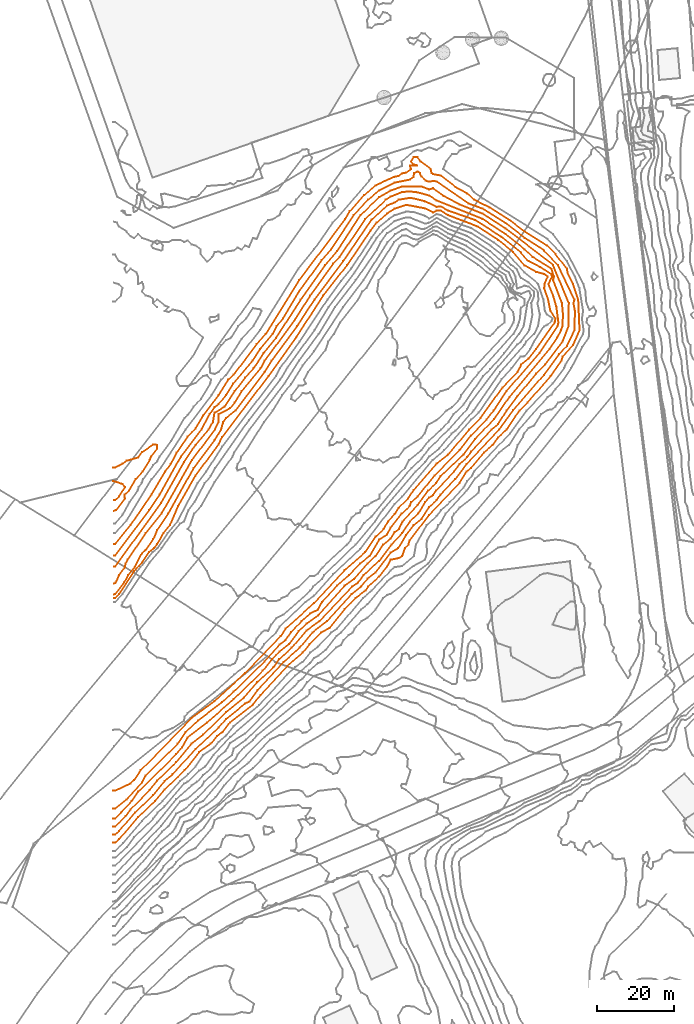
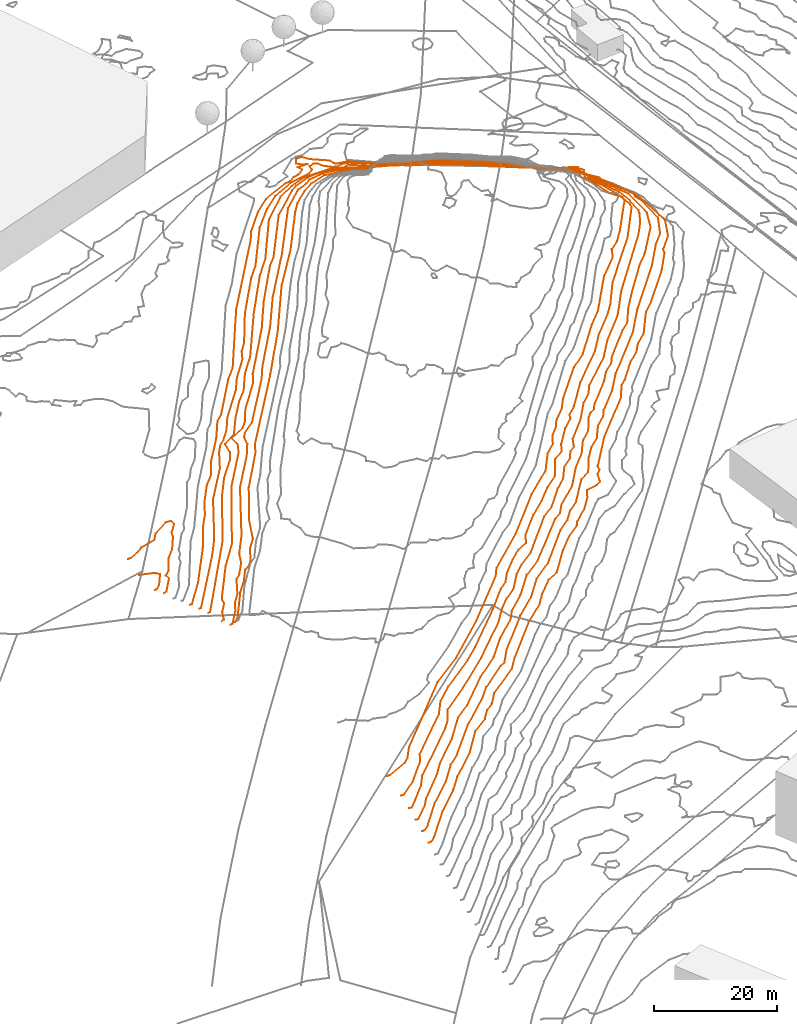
# Not in any storey, part 281 of 419: 8 proxies.
"""IFC2X3 model written with IfcOpenShell, lengths in metres."""

import ifcopenshell
import ifcopenshell.guid

model = None  # the IFC model being written
_history = None  # IfcOwnerHistory: only IFC2X3 demands one
_inside = {}  # id of a spatial element -> (the spatial element, [elements in it])
_under = {}  # id of a project, library or spatial element -> (it, [spatial elements below it])
_declared = {}  # id of a project -> (the project, [libraries it declares])
_typed = {}  # id of a type object -> (the type object, [elements of that type])
_made_of = {}  # id of a material, layer set ... -> (it, [elements and type objects made of it])


def new_model(schema):
    """Start an empty IFC model of exactly this schema.

    Asked for "IFC4X3", IfcOpenShell would pick the latest addendum, in which some entities
    have other attributes; the version numbers below select the first issue.
    IFC2X3 requires an IfcOwnerHistory on every rooted entity: one is made here for all.
    """
    global model, _history
    if schema == "IFC4X3":
        model = ifcopenshell.file(schema_version=(4, 3, 0, 0))
    else:
        model = ifcopenshell.file(schema=schema)
    _inside.clear()
    _under.clear()
    _declared.clear()
    _typed.clear()
    _made_of.clear()
    _history = None
    if model.schema == "IFC2X3":
        org = make("IfcOrganization", Name="unknown")
        user = make(
            "IfcPersonAndOrganization",
            ThePerson=make("IfcPerson", FamilyName="unknown"),
            TheOrganization=org,
        )
        app = make(
            "IfcApplication",
            ApplicationDeveloper=org,
            Version="unknown",
            ApplicationFullName="unknown",
            ApplicationIdentifier="unknown",
        )
        _history = make(
            "IfcOwnerHistory",
            OwningUser=user,
            OwningApplication=app,
            ChangeAction="ADDED",
            CreationDate=0,
        )
    return model


def make(cls, **values):
    """One entity of the class cls with the attributes given. An attribute that is None is left unset."""
    return model.create_entity(
        cls, **{name: value for name, value in values.items() if value is not None}
    )


def entity(cls, *values):
    """Any entity or typed value of the class cls, its attributes in the order of the schema. None: left unset."""
    e = model.create_entity(cls)
    for i, value in enumerate(values):
        if value is not None:
            e[i] = value
    return e


def rooted(cls, **values):
    """An entity with a GlobalId (a new one), such as an element, a storey or a relation."""
    return make(cls, GlobalId=ifcopenshell.guid.new(), OwnerHistory=_history, **values)


def si_unit(unit_type, name, prefix=None):
    """IfcSIUnit, for example si_unit("LENGTHUNIT", "METRE", prefix="MILLI")."""
    return make("IfcSIUnit", UnitType=unit_type, Prefix=prefix, Name=name)


def assignment(units):
    """IfcUnitAssignment: the units of a project."""
    return None if units is None else make("IfcUnitAssignment", Units=units)


def point(xyz):
    """IfcCartesianPoint."""
    return None if xyz is None else make("IfcCartesianPoint", Coordinates=xyz)


def direction(xyz):
    """IfcDirection."""
    return None if xyz is None else make("IfcDirection", DirectionRatios=xyz)


def frame(location, z_axis=None, x_axis=None):
    """IfcAxis2Placement3D, a coordinate frame: its origin and axes. An axis left out is left unset."""
    return make(
        "IfcAxis2Placement3D",
        Location=point(location),
        Axis=direction(z_axis),
        RefDirection=direction(x_axis),
    )


def origin_with_axes():
    """The frame at (0, 0, 0) with the z axis (0, 0, 1) and the x axis (1, 0, 0) written out."""
    return frame((0.0, 0.0, 0.0), z_axis=(0.0, 0.0, 1.0), x_axis=(1.0, 0.0, 0.0))


def place(relative_to, where):
    """IfcLocalPlacement: puts the frame where relative to a parent placement (None: the world)."""
    return make(
        "IfcLocalPlacement", PlacementRelTo=relative_to, RelativePlacement=where
    )


def context(
    kind, dimensions, precision=None, world=None, true_north=None, identifier=None
):
    """IfcGeometricRepresentationContext, for example the 3D "Model" context."""
    return make(
        "IfcGeometricRepresentationContext",
        ContextIdentifier=identifier,
        ContextType=kind,
        CoordinateSpaceDimension=dimensions,
        Precision=precision,
        WorldCoordinateSystem=world,
        TrueNorth=true_north,
    )


def subcontext(parent, identifier, kind, view, scale=None):
    """IfcGeometricRepresentationSubContext, for example "Body" below "Model"."""
    return make(
        "IfcGeometricRepresentationSubContext",
        ContextIdentifier=identifier,
        ContextType=kind,
        ParentContext=parent,
        TargetScale=scale,
        TargetView=view,
    )


def project(units=None, contexts=None):
    """IfcProject with its units and contexts."""
    return rooted(
        "IfcProject",
        Name="project",
        RepresentationContexts=contexts,
        UnitsInContext=assignment(units),
    )


def shape(context_of_items, identifier, shape_type, items):
    """IfcShapeRepresentation: the items that make up one representation, for example the "Body"."""
    return make(
        "IfcShapeRepresentation",
        ContextOfItems=context_of_items,
        RepresentationIdentifier=identifier,
        RepresentationType=shape_type,
        Items=items,
    )


def made_of(thing, what):
    """Note that an element or type object is made of a material, layer set ...; save() writes the relation."""
    if what is not None:
        _made_of.setdefault(what.id(), (what, []))[1].append(thing)
    return thing


def element(
    cls,
    number,
    at=None,
    inside=None,
    cuts=None,
    type_object=None,
    material=None,
    context=None,
    identifier="Body",
    shape_type=None,
    held_by="IfcProductDefinitionShape",
    body=None,
    shapes=None,
    **own,
):
    """One element of the class cls, such as IfcWall. Its Tag is "e" and its number.

    at: its placement. inside: the storey or other place that contains it. cuts: it is an
    opening in that element (IfcRelVoidsElement). A single representation is given by context,
    identifier, shape_type and body (its items); several are given by shapes. held_by: the class
    of the entity that holds the representations. save() writes the other relations.
    """
    e = rooted(cls, Tag="e%d" % number, ObjectPlacement=at, **own)
    if body is not None:
        shapes = [shape(context, identifier, shape_type, body)]
    if shapes is not None:
        e.Representation = make(held_by, Representations=shapes)
    if inside is not None:
        _inside.setdefault(inside.id(), (inside, []))[1].append(e)
    if cuts is not None:
        rooted(
            "IfcRelVoidsElement", RelatingBuildingElement=cuts, RelatedOpeningElement=e
        )
    if type_object is not None:
        _typed.setdefault(type_object.id(), (type_object, []))[1].append(e)
    return made_of(e, material)


def aggregate(whole, parts):
    """IfcRelAggregates: a whole, such as a stair, and the parts it consists of."""
    return rooted("IfcRelAggregates", RelatingObject=whole, RelatedObjects=parts)


def save(model, path):
    """Write the relations noted so far, then the file.

    IfcRelAggregates (storeys below a building ...), IfcRelContainedInSpatialStructure (elements
    in a storey), IfcRelDefinesByType, IfcRelAssociatesMaterial and IfcRelDeclares: one each for
    every whole, place, type object, material and project.
    """
    for whole, parts in _under.values():
        aggregate(whole, parts)
    for where, things in _inside.values():
        rooted(
            "IfcRelContainedInSpatialStructure",
            RelatedElements=things,
            RelatingStructure=where,
        )
    for kind, things in _typed.values():
        rooted("IfcRelDefinesByType", RelatedObjects=things, RelatingType=kind)
    for what, things in _made_of.values():
        rooted("IfcRelAssociatesMaterial", RelatedObjects=things, RelatingMaterial=what)
    for by, libraries in _declared.values():
        rooted("IfcRelDeclares", RelatingContext=by, RelatedDefinitions=libraries)
    model.write(path)


model = new_model("IFC2X3")

# Units and contexts
model_context = context("Model", 3, precision=1e-05, world=origin_with_axes())
body_context = subcontext(model_context, "Body", "Model", "MODEL_VIEW")
ifc_project = project(units=[si_unit("AREAUNIT", "SQUARE_METRE"), si_unit("LENGTHUNIT", "METRE")], contexts=[model_context])

# Proxies
proxy_1_placement = place(None, frame((-0.4079795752, 741.44607927, 19.0), z_axis=(0.0, 0.0, 1.0), x_axis=(1.0, 0.0, 0.0)))
element("IfcBuildingElementProxy", 1, at=proxy_1_placement, Name="Contour 19.0 m", ObjectType="NOTDEFINED", context=body_context, shape_type="GeometricCurveSet", body=[
    entity("IfcGeometricCurveSet", [entity("IfcPolyline", [entity("IfcCartesianPoint", [0.0, 0.0, 0.0]), entity("IfcCartesianPoint", [0.5, 0.0, 0.0]), entity("IfcCartesianPoint", [1.5, 0.9516146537, 0.0]), entity("IfcCartesianPoint", [3.1111114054, 3.4516117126, 0.0]), entity("IfcCartesianPoint", [2.5, 4.2102326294, 0.0]), entity("IfcCartesianPoint", [0.0, 4.9849458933, 0.0])])]),
])
proxy_2_placement = place(None, frame((-0.4079795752, 738.6003927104, 20.0), z_axis=(0.0, 0.0, 1.0), x_axis=(1.0, 0.0, 0.0)))
element("IfcBuildingElementProxy", 2, at=proxy_2_placement, Name="Contour 20.0 m", ObjectType="NOTDEFINED", context=body_context, shape_type="GeometricCurveSet", body=[
    entity("IfcGeometricCurveSet", [entity("IfcPolyline", [entity("IfcCartesianPoint", [0.0, 0.0, 0.0]), entity("IfcCartesianPoint", [0.8333352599, 0.2972982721, 0.0]), entity("IfcCartesianPoint", [3.0606058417, 3.2972982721, 0.0]), entity("IfcCartesianPoint", [3.037735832, 4.2972982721, 0.0]), entity("IfcCartesianPoint", [4.1470583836, 5.2972982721, 0.0]), entity("IfcCartesianPoint", [5.8859639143, 8.2972982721, 0.0]), entity("IfcCartesianPoint", [7.7000012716, 10.2972982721, 0.0]), entity("IfcCartesianPoint", [9.583334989, 13.2972982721, 0.0]), entity("IfcCartesianPoint", [9.9062477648, 14.2972982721, 0.0]), entity("IfcCartesianPoint", [11.5200004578, 16.2972982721, 0.0]), entity("IfcCartesianPoint", [11.5, 17.2971982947, 0.0]), entity("IfcCartesianPoint", [10.5, 17.3742224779, 0.0]), entity("IfcCartesianPoint", [7.5, 15.3687287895, 0.0]), entity("IfcCartesianPoint", [6.5, 14.0056325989, 0.0]), entity("IfcCartesianPoint", [3.5, 13.1434498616, 0.0]), entity("IfcCartesianPoint", [2.5, 12.3742224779, 0.0]), entity("IfcCartesianPoint", [0.5, 11.4084117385, 0.0]), entity("IfcCartesianPoint", [0.0, 11.4084117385, 0.0])])]),
])
proxy_3_placement = place(None, frame((-0.4079795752, 665.5643611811, 28.0), z_axis=(0.0, 0.0, 1.0), x_axis=(1.0, 0.0, 0.0)))
element("IfcBuildingElementProxy", 3, at=proxy_3_placement, Name="Contour 28.0 m", ObjectType="NOTDEFINED", context=body_context, shape_type="GeometricCurveSet", body=[
    entity("IfcGeometricCurveSet", [entity("IfcPolyline", [entity("IfcCartesianPoint", [0.0, 50.3425892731, 0.0]), entity("IfcCartesianPoint", [0.5, 50.3425892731, 0.0]), entity("IfcCartesianPoint", [1.5535710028, 51.3333298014, 0.0]), entity("IfcCartesianPoint", [5.5158733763, 57.3333298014, 0.0]), entity("IfcCartesianPoint", [7.5, 59.6296260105, 0.0]), entity("IfcCartesianPoint", [9.333333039, 62.3333298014, 0.0]), entity("IfcCartesianPoint", [10.7280704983, 63.3333298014, 0.0]), entity("IfcCartesianPoint", [11.5, 64.3650765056, 0.0]), entity("IfcCartesianPoint", [13.1184199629, 67.3333298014, 0.0]), entity("IfcCartesianPoint", [14.8181805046, 69.3333298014, 0.0]), entity("IfcCartesianPoint", [16.9680843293, 74.3333298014, 0.0]), entity("IfcCartesianPoint", [21.5, 82.263560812, 0.0]), entity("IfcCartesianPoint", [27.5, 90.4496075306, 0.0]), entity("IfcCartesianPoint", [28.5, 92.4144125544, 0.0]), entity("IfcCartesianPoint", [40.5999984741, 108.3333298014, 0.0]), entity("IfcCartesianPoint", [47.771186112, 118.3333298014, 0.0]), entity("IfcCartesianPoint", [54.8571433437, 129.3333298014, 0.0]), entity("IfcCartesianPoint", [61.1538458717, 137.3333298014, 0.0]), entity("IfcCartesianPoint", [67.2323939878, 146.3333298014, 0.0]), entity("IfcCartesianPoint", [68.7999992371, 148.3333298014, 0.0]), entity("IfcCartesianPoint", [71.5, 150.7407366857, 0.0]), entity("IfcCartesianPoint", [73.5, 151.9878750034, 0.0]), entity("IfcCartesianPoint", [76.5, 153.0060572, 0.0]), entity("IfcCartesianPoint", [81.5, 152.0880478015, 0.0]), entity("IfcCartesianPoint", [83.5, 150.9999957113, 0.0]), entity("IfcCartesianPoint", [84.5, 151.5076421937, 0.0]), entity("IfcCartesianPoint", [85.5, 151.4906325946, 0.0]), entity("IfcCartesianPoint", [87.5, 150.2857096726, 0.0]), entity("IfcCartesianPoint", [95.2333319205, 147.3333298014, 0.0]), entity("IfcCartesianPoint", [100.5, 143.8557183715, 0.0]), entity("IfcCartesianPoint", [104.5, 140.6818140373, 0.0]), entity("IfcCartesianPoint", [107.5, 137.1823867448, 0.0]), entity("IfcCartesianPoint", [110.5, 135.5079336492, 0.0]), entity("IfcCartesianPoint", [112.5, 134.9487147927, 0.0]), entity("IfcCartesianPoint", [113.5144930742, 134.3333298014, 0.0]), entity("IfcCartesianPoint", [112.6619049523, 132.3333298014, 0.0]), entity("IfcCartesianPoint", [112.6090900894, 131.3333298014, 0.0]), entity("IfcCartesianPoint", [113.629870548, 128.3333298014, 0.0]), entity("IfcCartesianPoint", [114.2391301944, 125.3333298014, 0.0]), entity("IfcCartesianPoint", [115.5287776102, 123.3333298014, 0.0]), entity("IfcCartesianPoint", [115.3526320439, 122.3333298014, 0.0]), entity("IfcCartesianPoint", [110.4393927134, 115.3333298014, 0.0]), entity("IfcCartesianPoint", [108.5, 112.8999963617, 0.0]), entity("IfcCartesianPoint", [106.5980380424, 111.3333298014, 0.0]), entity("IfcCartesianPoint", [105.6290319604, 109.3333298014, 0.0]), entity("IfcCartesianPoint", [101.6754393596, 105.3333298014, 0.0]), entity("IfcCartesianPoint", [95.9067791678, 97.3333298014, 0.0]), entity("IfcCartesianPoint", [92.9915268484, 94.3333298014, 0.0]), entity("IfcCartesianPoint", [87.5, 87.7948674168, 0.0]), entity("IfcCartesianPoint", [84.5, 85.424240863, 0.0]), entity("IfcCartesianPoint", [78.5, 78.5515126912, 0.0]), entity("IfcCartesianPoint", [76.9912278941, 76.3333298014, 0.0]), entity("IfcCartesianPoint", [74.5, 73.7878764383, 0.0]), entity("IfcCartesianPoint", [73.5, 72.2108818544, 0.0]), entity("IfcCartesianPoint", [71.7631573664, 70.3333298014, 0.0]), entity("IfcCartesianPoint", [70.6851855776, 68.3333298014, 0.0]), entity("IfcCartesianPoint", [68.5461547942, 66.3333298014, 0.0]), entity("IfcCartesianPoint", [65.8488360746, 62.3333298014, 0.0]), entity("IfcCartesianPoint", [60.5, 57.609191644, 0.0]), entity("IfcCartesianPoint", [52.5, 49.0542582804, 0.0]), entity("IfcCartesianPoint", [45.0588248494, 42.3333298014, 0.0]), entity("IfcCartesianPoint", [43.7564103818, 40.3333298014, 0.0]), entity("IfcCartesianPoint", [34.5, 30.7643643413, 0.0]), entity("IfcCartesianPoint", [26.5, 23.420288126, 0.0]), entity("IfcCartesianPoint", [20.5, 19.0208302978, 0.0]), entity("IfcCartesianPoint", [7.2352937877, 5.3333298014, 0.0]), entity("IfcCartesianPoint", [5.5, 2.8333256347, 0.0]), entity("IfcCartesianPoint", [4.5, 1.9122787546, 0.0]), entity("IfcCartesianPoint", [0.5, 0.0, 0.0]), entity("IfcCartesianPoint", [0.0, 0.0, 0.0])])]),
])
proxy_4_placement = place(None, frame((-0.4079795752, 660.8976881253, 27.0), z_axis=(0.0, 0.0, 1.0), x_axis=(1.0, 0.0, 0.0)))
element("IfcBuildingElementProxy", 4, at=proxy_4_placement, Name="Contour 27.0 m", ObjectType="NOTDEFINED", context=body_context, shape_type="GeometricCurveSet", body=[
    entity("IfcGeometricCurveSet", [entity("IfcPolyline", [entity("IfcCartesianPoint", [0.0, 55.9351883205, 0.0]), entity("IfcCartesianPoint", [0.5693066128, 56.0000028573, 0.0]), entity("IfcCartesianPoint", [2.8524589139, 59.0000028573, 0.0]), entity("IfcCartesianPoint", [3.9351845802, 61.0000028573, 0.0]), entity("IfcCartesianPoint", [5.5588232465, 63.0000028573, 0.0]), entity("IfcCartesianPoint", [7.5, 66.6666730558, 0.0]), entity("IfcCartesianPoint", [8.5, 67.526319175, 0.0]), entity("IfcCartesianPoint", [10.5, 70.3500033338, 0.0]), entity("IfcCartesianPoint", [11.5, 72.7142898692, 0.0]), entity("IfcCartesianPoint", [14.4000009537, 77.0000028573, 0.0]), entity("IfcCartesianPoint", [21.0531927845, 89.0000028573, 0.0]), entity("IfcCartesianPoint", [26.5, 96.2571458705, 0.0]), entity("IfcCartesianPoint", [28.2000007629, 99.0000028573, 0.0]), entity("IfcCartesianPoint", [28.7631581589, 101.0000028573, 0.0]), entity("IfcCartesianPoint", [29.4705875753, 102.0000028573, 0.0]), entity("IfcCartesianPoint", [31.9642865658, 104.0000028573, 0.0]), entity("IfcCartesianPoint", [39.5517253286, 114.0000028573, 0.0]), entity("IfcCartesianPoint", [41.4347812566, 117.0000028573, 0.0]), entity("IfcCartesianPoint", [48.0757564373, 126.0000028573, 0.0]), entity("IfcCartesianPoint", [52.5943384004, 133.0000028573, 0.0]), entity("IfcCartesianPoint", [60.1140360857, 143.0000028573, 0.0]), entity("IfcCartesianPoint", [67.5, 153.7907003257, 0.0]), entity("IfcCartesianPoint", [71.5, 157.4888914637, 0.0]), entity("IfcCartesianPoint", [73.5, 158.2698446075, 0.0]), entity("IfcCartesianPoint", [74.5, 159.0163966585, 0.0]), entity("IfcCartesianPoint", [77.5, 159.5000047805, 0.0]), entity("IfcCartesianPoint", [78.5, 159.3448318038, 0.0]), entity("IfcCartesianPoint", [81.5, 158.5892889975, 0.0]), entity("IfcCartesianPoint", [84.5, 157.1428603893, 0.0]), entity("IfcCartesianPoint", [85.5, 157.2659601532, 0.0]), entity("IfcCartesianPoint", [87.5, 156.1645589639, 0.0]), entity("IfcCartesianPoint", [94.5, 153.7073201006, 0.0]), entity("IfcCartesianPoint", [101.5, 149.2575787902, 0.0]), entity("IfcCartesianPoint", [106.5, 145.1896591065, 0.0]), entity("IfcCartesianPoint", [108.5, 142.9464303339, 0.0]), entity("IfcCartesianPoint", [111.5, 141.4324350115, 0.0]), entity("IfcCartesianPoint", [114.5, 139.4848509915, 0.0]), entity("IfcCartesianPoint", [114.6545892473, 139.0000028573, 0.0]), entity("IfcCartesianPoint", [113.7000012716, 137.0000028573, 0.0]), entity("IfcCartesianPoint", [114.9576277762, 134.0000028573, 0.0]), entity("IfcCartesianPoint", [115.7857150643, 131.0000028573, 0.0]), entity("IfcCartesianPoint", [116.3269229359, 127.0000028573, 0.0]), entity("IfcCartesianPoint", [116.1027392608, 126.0000028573, 0.0]), entity("IfcCartesianPoint", [111.3166657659, 119.0000028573, 0.0]), entity("IfcCartesianPoint", [102.7000006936, 109.0000028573, 0.0]), entity("IfcCartesianPoint", [99.4019619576, 104.0000028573, 0.0]), entity("IfcCartesianPoint", [97.5, 101.6136395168, 0.0]), entity("IfcCartesianPoint", [93.5, 97.4909117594, 0.0]), entity("IfcCartesianPoint", [90.5, 93.606065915, 0.0]), entity("IfcCartesianPoint", [83.9210524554, 87.0000028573, 0.0]), entity("IfcCartesianPoint", [79.5, 81.4800023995, 0.0]), entity("IfcCartesianPoint", [77.8333317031, 80.0000028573, 0.0]), entity("IfcCartesianPoint", [77.47916617, 79.0000028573, 0.0]), entity("IfcCartesianPoint", [75.3333333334, 77.0000028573, 0.0]), entity("IfcCartesianPoint", [72.5, 73.4210560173, 0.0]), entity("IfcCartesianPoint", [71.5, 71.5535738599, 0.0]), entity("IfcCartesianPoint", [69.5, 70.2692332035, 0.0]), entity("IfcCartesianPoint", [67.0079367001, 66.0000028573, 0.0]), entity("IfcCartesianPoint", [64.4803917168, 64.0000028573, 0.0]), entity("IfcCartesianPoint", [61.6136349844, 61.0000028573, 0.0]), entity("IfcCartesianPoint", [58.5, 58.2881385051, 0.0]), entity("IfcCartesianPoint", [54.538462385, 54.0000028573, 0.0]), entity("IfcCartesianPoint", [53.5, 51.9466683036, 0.0]), entity("IfcCartesianPoint", [51.5, 51.0000009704, 0.0]), entity("IfcCartesianPoint", [49.2555546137, 49.0000028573, 0.0]), entity("IfcCartesianPoint", [46.5, 46.1162805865, 0.0]), entity("IfcCartesianPoint", [45.0200004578, 44.0000028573, 0.0]), entity("IfcCartesianPoint", [43.5, 42.84483016, 0.0]), entity("IfcCartesianPoint", [39.5, 38.4363666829, 0.0]), entity("IfcCartesianPoint", [31.5, 30.5106414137, 0.0]), entity("IfcCartesianPoint", [28.5, 27.8000021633, 0.0]), entity("IfcCartesianPoint", [22.1388899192, 23.0000028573, 0.0]), entity("IfcCartesianPoint", [18.9444448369, 20.0000028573, 0.0]), entity("IfcCartesianPoint", [16.9, 17.0000028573, 0.0]), entity("IfcCartesianPoint", [8.5, 8.6818214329, 0.0]), entity("IfcCartesianPoint", [7.5, 6.8363659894, 0.0]), entity("IfcCartesianPoint", [3.5, 2.4200010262, 0.0]), entity("IfcCartesianPoint", [0.5, 0.0, 0.0]), entity("IfcCartesianPoint", [0.0, 0.0, 0.0])])]),
])
proxy_5_placement = place(None, frame((-0.4079795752, 658.3444981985, 26.0), z_axis=(0.0, 0.0, 1.0), x_axis=(1.0, 0.0, 0.0)))
element("IfcBuildingElementProxy", 5, at=proxy_5_placement, Name="Contour 26.0 m", ObjectType="NOTDEFINED", context=body_context, shape_type="GeometricCurveSet", body=[
    entity("IfcGeometricCurveSet", [entity("IfcPolyline", [entity("IfcCartesianPoint", [0.0, 61.3031951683, 0.0]), entity("IfcCartesianPoint", [0.6923059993, 61.5531927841, 0.0]), entity("IfcCartesianPoint", [1.5357150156, 63.5531927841, 0.0]), entity("IfcCartesianPoint", [3.0555567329, 65.5531927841, 0.0]), entity("IfcCartesianPoint", [3.2428569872, 66.5531927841, 0.0]), entity("IfcCartesianPoint", [3.8243258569, 67.5531927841, 0.0]), entity("IfcCartesianPoint", [8.5204086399, 74.5531927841, 0.0]), entity("IfcCartesianPoint", [12.5980380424, 79.5531927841, 0.0]), entity("IfcCartesianPoint", [20.5638310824, 93.5531927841, 0.0]), entity("IfcCartesianPoint", [26.5714275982, 101.5531927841, 0.0]), entity("IfcCartesianPoint", [27.5217396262, 103.5531927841, 0.0]), entity("IfcCartesianPoint", [27.5789489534, 105.5531927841, 0.0]), entity("IfcCartesianPoint", [30.5, 107.1067637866, 0.0]), entity("IfcCartesianPoint", [31.7745084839, 108.5531927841, 0.0]), entity("IfcCartesianPoint", [33.5999984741, 111.5531927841, 0.0]), entity("IfcCartesianPoint", [38.5500011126, 117.5531927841, 0.0]), entity("IfcCartesianPoint", [39.6093746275, 119.5531927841, 0.0]), entity("IfcCartesianPoint", [47.5, 130.26747772, 0.0]), entity("IfcCartesianPoint", [51.5, 136.5781933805, 0.0]), entity("IfcCartesianPoint", [57.5, 144.9148956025, 0.0]), entity("IfcCartesianPoint", [59.0915485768, 146.5531927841, 0.0]), entity("IfcCartesianPoint", [65.8584911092, 156.5531927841, 0.0]), entity("IfcCartesianPoint", [71.2173925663, 161.5531927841, 0.0]), entity("IfcCartesianPoint", [72.5, 162.3865261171, 0.0]), entity("IfcCartesianPoint", [75.5, 163.5821789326, 0.0]), entity("IfcCartesianPoint", [77.5, 163.7281921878, 0.0]), entity("IfcCartesianPoint", [79.5, 163.4817627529, 0.0]), entity("IfcCartesianPoint", [82.5, 162.65319183, 0.0]), entity("IfcCartesianPoint", [84.5, 161.3531920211, 0.0]), entity("IfcCartesianPoint", [96.4555546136, 156.5531927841, 0.0]), entity("IfcCartesianPoint", [102.4807688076, 152.5531927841, 0.0]), entity("IfcCartesianPoint", [107.5181821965, 148.5531927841, 0.0]), entity("IfcCartesianPoint", [109.5, 146.6475311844, 0.0]), entity("IfcCartesianPoint", [114.5, 143.5097135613, 0.0]), entity("IfcCartesianPoint", [115.137681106, 141.5531927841, 0.0]), entity("IfcCartesianPoint", [114.9393941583, 140.5531927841, 0.0]), entity("IfcCartesianPoint", [117.230769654, 134.5531927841, 0.0]), entity("IfcCartesianPoint", [117.5000015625, 131.5531927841, 0.0]), entity("IfcCartesianPoint", [117.3658528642, 128.5531927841, 0.0]), entity("IfcCartesianPoint", [116.9918030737, 127.5531927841, 0.0]), entity("IfcCartesianPoint", [116.000002, 125.5531927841, 0.0]), entity("IfcCartesianPoint", [113.9444448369, 122.5531927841, 0.0]), entity("IfcCartesianPoint", [103.5, 110.0795091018, 0.0]), entity("IfcCartesianPoint", [99.5, 104.3224228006, 0.0]), entity("IfcCartesianPoint", [94.5, 99.040999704, 0.0]), entity("IfcCartesianPoint", [91.5, 95.0643041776, 0.0]), entity("IfcCartesianPoint", [85.5, 89.386527, 0.0]), entity("IfcCartesianPoint", [84.3421049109, 87.5531927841, 0.0]), entity("IfcCartesianPoint", [82.2460316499, 85.5531927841, 0.0]), entity("IfcCartesianPoint", [79.5, 81.7754154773, 0.0]), entity("IfcCartesianPoint", [75.5701768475, 77.5531927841, 0.0]), entity("IfcCartesianPoint", [74.6406253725, 75.5531927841, 0.0]), entity("IfcCartesianPoint", [73.5, 74.7122828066, 0.0]), entity("IfcCartesianPoint", [72.5, 73.0731932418, 0.0]), entity("IfcCartesianPoint", [70.5, 71.4742438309, 0.0]), entity("IfcCartesianPoint", [68.5714300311, 68.5531927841, 0.0]), entity("IfcCartesianPoint", [66.4148918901, 66.5531927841, 0.0]), entity("IfcCartesianPoint", [62.91071386, 62.5531927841, 0.0]), entity("IfcCartesianPoint", [60.5, 60.7796091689, 0.0]), entity("IfcCartesianPoint", [53.5, 53.0161549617, 0.0]), entity("IfcCartesianPoint", [50.5, 50.8531931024, 0.0]), entity("IfcCartesianPoint", [48.5, 48.9073599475, 0.0]), entity("IfcCartesianPoint", [45.9655180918, 45.5531927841, 0.0]), entity("IfcCartesianPoint", [43.5, 43.6087495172, 0.0]), entity("IfcCartesianPoint", [41.5, 41.5902306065, 0.0]), entity("IfcCartesianPoint", [39.0957445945, 38.5531927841, 0.0]), entity("IfcCartesianPoint", [31.5, 31.1380987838, 0.0]), entity("IfcCartesianPoint", [24.5, 25.0531907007, 0.0]), entity("IfcCartesianPoint", [19.5, 21.1668294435, 0.0]), entity("IfcCartesianPoint", [17.9800008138, 18.5531927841, 0.0]), entity("IfcCartesianPoint", [16.5, 16.7674788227, 0.0]), entity("IfcCartesianPoint", [6.5, 6.9420806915, 0.0]), entity("IfcCartesianPoint", [4.8559317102, 4.5531927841, 0.0]), entity("IfcCartesianPoint", [2.0319156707, 1.5531927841, 0.0]), entity("IfcCartesianPoint", [0.5, 0.0, 0.0]), entity("IfcCartesianPoint", [0.0, 0.0, 0.0])])]),
])
proxy_6_placement = place(None, frame((-0.4079795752, 656.2101904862, 25.0), z_axis=(0.0, 0.0, 1.0), x_axis=(1.0, 0.0, 0.0)))
element("IfcBuildingElementProxy", 6, at=proxy_6_placement, Name="Contour 25.0 m", ObjectType="NOTDEFINED", context=body_context, shape_type="GeometricCurveSet", body=[
    entity("IfcGeometricCurveSet", [entity("IfcPolyline", [entity("IfcCartesianPoint", [0.0, 67.8541650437, 0.0]), entity("IfcCartesianPoint", [0.5, 67.8541650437, 0.0]), entity("IfcCartesianPoint", [12.5, 84.5208347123, 0.0]), entity("IfcCartesianPoint", [18.5, 95.1753074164, 0.0]), entity("IfcCartesianPoint", [21.4999984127, 99.6875004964, 0.0]), entity("IfcCartesianPoint", [24.9150940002, 103.6875004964, 0.0]), entity("IfcCartesianPoint", [26.0555551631, 105.6875004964, 0.0]), entity("IfcCartesianPoint", [26.5, 108.0578716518, 0.0]), entity("IfcCartesianPoint", [29.1382971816, 109.6875004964, 0.0]), entity("IfcCartesianPoint", [31.7545446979, 113.6875004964, 0.0]), entity("IfcCartesianPoint", [34.5, 117.2784093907, 0.0]), entity("IfcCartesianPoint", [36.7352956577, 119.6875004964, 0.0]), entity("IfcCartesianPoint", [39.2894728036, 123.6875004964, 0.0]), entity("IfcCartesianPoint", [42.5, 127.5208345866, 0.0]), entity("IfcCartesianPoint", [49.0192311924, 137.6875004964, 0.0]), entity("IfcCartesianPoint", [55.3813564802, 146.6875004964, 0.0]), entity("IfcCartesianPoint", [58.5, 150.3125010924, 0.0]), entity("IfcCartesianPoint", [64.5869583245, 159.6875004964, 0.0]), entity("IfcCartesianPoint", [69.5, 164.3660710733, 0.0]), entity("IfcCartesianPoint", [72.5, 166.0752568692, 0.0]), entity("IfcCartesianPoint", [75.5, 167.1727942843, 0.0]), entity("IfcCartesianPoint", [80.5, 167.173214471, 0.0]), entity("IfcCartesianPoint", [82.5, 166.395191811, 0.0]), entity("IfcCartesianPoint", [83.5, 166.7083343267, 0.0]), entity("IfcCartesianPoint", [86.3275882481, 164.6875004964, 0.0]), entity("IfcCartesianPoint", [90.5, 162.4494055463, 0.0]), entity("IfcCartesianPoint", [96.5, 160.0486122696, 0.0]), entity("IfcCartesianPoint", [102.5, 156.165760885, 0.0]), entity("IfcCartesianPoint", [114.8972607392, 146.6875004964, 0.0]), entity("IfcCartesianPoint", [119.0227278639, 136.6875004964, 0.0]), entity("IfcCartesianPoint", [118.955881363, 130.6875004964, 0.0]), entity("IfcCartesianPoint", [117.3695661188, 126.6875004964, 0.0]), entity("IfcCartesianPoint", [112.7972982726, 120.6875004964, 0.0]), entity("IfcCartesianPoint", [110.5, 118.346038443, 0.0]), entity("IfcCartesianPoint", [105.5, 112.2550672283, 0.0]), entity("IfcCartesianPoint", [102.7857142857, 108.6875004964, 0.0]), entity("IfcCartesianPoint", [100.5, 105.0840514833, 0.0]), entity("IfcCartesianPoint", [98.8333333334, 103.6875004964, 0.0]), entity("IfcCartesianPoint", [93.5, 97.9553572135, 0.0]), entity("IfcCartesianPoint", [92.5, 96.4652770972, 0.0]), entity("IfcCartesianPoint", [90.4655164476, 94.6875004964, 0.0]), entity("IfcCartesianPoint", [89.02083383, 92.6875004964, 0.0]), entity("IfcCartesianPoint", [84.2843126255, 87.6875004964, 0.0]), entity("IfcCartesianPoint", [83.5, 86.5208345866, 0.0]), entity("IfcCartesianPoint", [82.5, 85.9078387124, 0.0]), entity("IfcCartesianPoint", [81.5, 84.7629738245, 0.0]), entity("IfcCartesianPoint", [79.6521735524, 81.6875004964, 0.0]), entity("IfcCartesianPoint", [77.500002, 79.6875004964, 0.0]), entity("IfcCartesianPoint", [75.5, 76.6440213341, 0.0]), entity("IfcCartesianPoint", [72.7045455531, 73.6875004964, 0.0]), entity("IfcCartesianPoint", [69.5, 69.3896290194, 0.0]), entity("IfcCartesianPoint", [65.3666668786, 65.6875004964, 0.0]), entity("IfcCartesianPoint", [63.9516133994, 63.6875004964, 0.0]), entity("IfcCartesianPoint", [62.4285698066, 62.6875004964, 0.0]), entity("IfcCartesianPoint", [53.9166669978, 53.6875004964, 0.0]), entity("IfcCartesianPoint", [50.5, 51.2223827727, 0.0]), entity("IfcCartesianPoint", [46.6509430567, 46.6875004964, 0.0]), entity("IfcCartesianPoint", [43.3333333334, 43.6875004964, 0.0]), entity("IfcCartesianPoint", [41.9603181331, 41.6875004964, 0.0]), entity("IfcCartesianPoint", [37.6296293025, 37.6875004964, 0.0]), entity("IfcCartesianPoint", [34.1511639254, 33.6875004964, 0.0]), entity("IfcCartesianPoint", [29.5, 29.9017871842, 0.0]), entity("IfcCartesianPoint", [23.5, 23.9816172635, 0.0]), entity("IfcCartesianPoint", [20.5, 21.6874972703, 0.0]), entity("IfcCartesianPoint", [16.5, 16.8726860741, 0.0]), entity("IfcCartesianPoint", [11.5, 11.9732167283, 0.0]), entity("IfcCartesianPoint", [9.5, 9.5032903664, 0.0]), entity("IfcCartesianPoint", [4.5, 4.3896290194, 0.0]), entity("IfcCartesianPoint", [3.2599983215, 2.6875004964, 0.0]), entity("IfcCartesianPoint", [0.5, 0.0, 0.0]), entity("IfcCartesianPoint", [0.0, 0.0, 0.0])])]),
])
proxy_7_placement = place(None, frame((-0.4079795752, 654.1345328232, 24.0), z_axis=(0.0, 0.0, 1.0), x_axis=(1.0, 0.0, 0.0)))
element("IfcBuildingElementProxy", 7, at=proxy_7_placement, Name="Contour 24.0 m", ObjectType="NOTDEFINED", context=body_context, shape_type="GeometricCurveSet", body=[
    entity("IfcGeometricCurveSet", [entity("IfcPolyline", [entity("IfcCartesianPoint", [0.0, 72.9020454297, 0.0]), entity("IfcCartesianPoint", [0.5, 72.9020454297, 0.0]), entity("IfcCartesianPoint", [9.431816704, 84.7631581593, 0.0]), entity("IfcCartesianPoint", [12.1603772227, 88.7631581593, 0.0]), entity("IfcCartesianPoint", [17.7115394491, 98.7631581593, 0.0]), entity("IfcCartesianPoint", [23.0400009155, 105.7631581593, 0.0]), entity("IfcCartesianPoint", [25.2032961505, 109.7631581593, 0.0]), entity("IfcCartesianPoint", [26.5, 111.6093110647, 0.0]), entity("IfcCartesianPoint", [27.5, 112.3718539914, 0.0]), entity("IfcCartesianPoint", [29.5, 114.7894744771, 0.0]), entity("IfcCartesianPoint", [31.3750009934, 117.7631581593, 0.0]), entity("IfcCartesianPoint", [36.4374987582, 123.7631581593, 0.0]), entity("IfcCartesianPoint", [38.3653853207, 126.7631581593, 0.0]), entity("IfcCartesianPoint", [41.7105271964, 130.7631581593, 0.0]), entity("IfcCartesianPoint", [42.7241365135, 132.7631581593, 0.0]), entity("IfcCartesianPoint", [44.3431374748, 134.7631581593, 0.0]), entity("IfcCartesianPoint", [48.5192311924, 141.7631581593, 0.0]), entity("IfcCartesianPoint", [54.5, 150.0631591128, 0.0]), entity("IfcCartesianPoint", [56.8684196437, 152.7631581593, 0.0]), entity("IfcCartesianPoint", [62.8606553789, 161.7631581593, 0.0]), entity("IfcCartesianPoint", [66.5454555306, 165.7631581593, 0.0]), entity("IfcCartesianPoint", [69.5, 168.2286762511, 0.0]), entity("IfcCartesianPoint", [73.5, 170.2337457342, 0.0]), entity("IfcCartesianPoint", [77.5, 171.0488724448, 0.0]), entity("IfcCartesianPoint", [78.4523798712, 171.7631581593, 0.0]), entity("IfcCartesianPoint", [78.5952398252, 172.7631581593, 0.0]), entity("IfcCartesianPoint", [79.5, 173.1086129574, 0.0]), entity("IfcCartesianPoint", [80.1333326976, 172.7631581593, 0.0]), entity("IfcCartesianPoint", [80.5, 171.8464928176, 0.0]), entity("IfcCartesianPoint", [81.6666693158, 170.7631581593, 0.0]), entity("IfcCartesianPoint", [82.5, 170.4646495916, 0.0]), entity("IfcCartesianPoint", [83.5, 170.6929813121, 0.0]), entity("IfcCartesianPoint", [84.5, 170.5358848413, 0.0]), entity("IfcCartesianPoint", [92.8437522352, 164.7631581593, 0.0]), entity("IfcCartesianPoint", [96.5, 163.438158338, 0.0]), entity("IfcCartesianPoint", [102.5, 159.6645669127, 0.0]), entity("IfcCartesianPoint", [107.5, 155.8107782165, 0.0]), entity("IfcCartesianPoint", [112.5, 152.5594536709, 0.0]), entity("IfcCartesianPoint", [116.1829264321, 148.7631581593, 0.0]), entity("IfcCartesianPoint", [120.4672123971, 139.7631581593, 0.0]), entity("IfcCartesianPoint", [120.2523810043, 138.7631581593, 0.0]), entity("IfcCartesianPoint", [120.6309530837, 136.7631581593, 0.0]), entity("IfcCartesianPoint", [120.5000015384, 131.7631581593, 0.0]), entity("IfcCartesianPoint", [118.5, 127.6052630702, 0.0]), entity("IfcCartesianPoint", [116.5, 125.5082570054, 0.0]), entity("IfcCartesianPoint", [112.5, 120.0461769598, 0.0]), entity("IfcCartesianPoint", [104.5, 110.8464931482, 0.0]), entity("IfcCartesianPoint", [100.7878796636, 105.7631581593, 0.0]), entity("IfcCartesianPoint", [92.3095240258, 96.7631581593, 0.0]), entity("IfcCartesianPoint", [89.2924519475, 92.7631581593, 0.0]), entity("IfcCartesianPoint", [85.5, 88.8345883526, 0.0]), entity("IfcCartesianPoint", [84.5, 87.3103289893, 0.0]), entity("IfcCartesianPoint", [82.5, 85.5078378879, 0.0]), entity("IfcCartesianPoint", [80.5, 82.4238723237, 0.0]), entity("IfcCartesianPoint", [78.5000018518, 80.7631581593, 0.0]), entity("IfcCartesianPoint", [76.5, 78.1631581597, 0.0]), entity("IfcCartesianPoint", [74.4499988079, 74.7631581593, 0.0]), entity("IfcCartesianPoint", [72.5, 73.6031570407, 0.0]), entity("IfcCartesianPoint", [68.5, 68.458811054, 0.0]), entity("IfcCartesianPoint", [66.5, 66.8695396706, 0.0]), entity("IfcCartesianPoint", [64.7500010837, 64.7631581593, 0.0]), entity("IfcCartesianPoint", [62.2846161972, 62.7631581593, 0.0]), entity("IfcCartesianPoint", [55.896550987, 55.7631581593, 0.0]), entity("IfcCartesianPoint", [52.037037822, 52.7631581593, 0.0]), entity("IfcCartesianPoint", [48.6914899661, 48.7631581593, 0.0]), entity("IfcCartesianPoint", [44.5, 45.0224167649, 0.0]), entity("IfcCartesianPoint", [37.7280688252, 37.7631581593, 0.0]), entity("IfcCartesianPoint", [35.5784331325, 34.7631581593, 0.0]), entity("IfcCartesianPoint", [34.5, 34.2162836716, 0.0]), entity("IfcCartesianPoint", [29.5, 30.1597091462, 0.0]), entity("IfcCartesianPoint", [27.5, 27.915331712, 0.0]), entity("IfcCartesianPoint", [21.5, 22.3345867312, 0.0]), entity("IfcCartesianPoint", [15.5888907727, 15.7631581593, 0.0]), entity("IfcCartesianPoint", [13.5, 14.003897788, 0.0]), entity("IfcCartesianPoint", [10.5, 10.3501144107, 0.0]), entity("IfcCartesianPoint", [5.6904759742, 5.7631581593, 0.0]), entity("IfcCartesianPoint", [1.5, 0.8447924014, 0.0]), entity("IfcCartesianPoint", [0.5, 0.0, 0.0]), entity("IfcCartesianPoint", [0.0, 0.0, 0.0])])]),
])
proxy_8_placement = place(None, frame((-0.4079795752, 651.9976900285, 23.0), z_axis=(0.0, 0.0, 1.0), x_axis=(1.0, 0.0, 0.0)))
element("IfcBuildingElementProxy", 8, at=proxy_8_placement, Name="Contour 23.0 m", ObjectType="NOTDEFINED", context=body_context, shape_type="GeometricCurveSet", body=[
    entity("IfcGeometricCurveSet", [entity("IfcPolyline", [entity("IfcCartesianPoint", [0.0, 77.9967769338, 0.0]), entity("IfcCartesianPoint", [0.5, 77.9967769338, 0.0]), entity("IfcCartesianPoint", [4.4999980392, 82.900000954, 0.0]), entity("IfcCartesianPoint", [9.9999972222, 90.900000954, 0.0]), entity("IfcCartesianPoint", [13.5638310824, 96.900000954, 0.0]), entity("IfcCartesianPoint", [15.0423722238, 98.900000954, 0.0]), entity("IfcCartesianPoint", [16.635593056, 101.900000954, 0.0]), entity("IfcCartesianPoint", [19.5, 106.0395344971, 0.0]), entity("IfcCartesianPoint", [21.5, 108.2000019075, 0.0]), entity("IfcCartesianPoint", [23.5, 111.5764698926, 0.0]), entity("IfcCartesianPoint", [27.5526326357, 116.900000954, 0.0]), entity("IfcCartesianPoint", [30.07894684, 120.900000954, 0.0]), entity("IfcCartesianPoint", [31.5, 122.2043480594, 0.0]), entity("IfcCartesianPoint", [37.5, 130.2571428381, 0.0]), entity("IfcCartesianPoint", [39.8750009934, 132.900000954, 0.0]), entity("IfcCartesianPoint", [48.6111096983, 146.900000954, 0.0]), entity("IfcCartesianPoint", [60.5967734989, 162.900000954, 0.0]), entity("IfcCartesianPoint", [61.8090914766, 164.900000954, 0.0]), entity("IfcCartesianPoint", [65.5, 169.0818187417, 0.0]), entity("IfcCartesianPoint", [68.5, 171.6799997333, 0.0]), entity("IfcCartesianPoint", [73.4090893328, 173.900000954, 0.0]), entity("IfcCartesianPoint", [74.5, 174.1083352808, 0.0]), entity("IfcCartesianPoint", [75.5, 174.8117636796, 0.0]), entity("IfcCartesianPoint", [76.5, 174.9769255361, 0.0]), entity("IfcCartesianPoint", [77.7833332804, 175.900000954, 0.0]), entity("IfcCartesianPoint", [77.5, 176.9000152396, 0.0]), entity("IfcCartesianPoint", [79.3333280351, 176.900000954, 0.0]), entity("IfcCartesianPoint", [78.5, 177.127270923, 0.0]), entity("IfcCartesianPoint", [77.7916656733, 177.900000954, 0.0]), entity("IfcCartesianPoint", [78.5, 179.0692322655, 0.0]), entity("IfcCartesianPoint", [79.5, 179.0914909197, 0.0]), entity("IfcCartesianPoint", [80.3124955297, 177.900000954, 0.0]), entity("IfcCartesianPoint", [82.9696962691, 175.900000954, 0.0]), entity("IfcCartesianPoint", [83.1756741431, 174.900000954, 0.0]), entity("IfcCartesianPoint", [83.5, 174.6142847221, 0.0]), entity("IfcCartesianPoint", [85.5, 174.2404266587, 0.0]), entity("IfcCartesianPoint", [89.5, 171.1666690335, 0.0]), entity("IfcCartesianPoint", [92.5, 169.5666691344, 0.0]), entity("IfcCartesianPoint", [94.2428569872, 167.900000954, 0.0]), entity("IfcCartesianPoint", [98.3, 165.900000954, 0.0]), entity("IfcCartesianPoint", [103.5, 162.5760575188, 0.0]), entity("IfcCartesianPoint", [107.5, 159.5779662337, 0.0]), entity("IfcCartesianPoint", [113.3684227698, 155.900000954, 0.0]), entity("IfcCartesianPoint", [115.5, 153.7750019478, 0.0]), entity("IfcCartesianPoint", [118.5400009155, 149.900000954, 0.0]), entity("IfcCartesianPoint", [118.6830976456, 148.900000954, 0.0]), entity("IfcCartesianPoint", [120.1363629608, 145.900000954, 0.0]), entity("IfcCartesianPoint", [121.4799995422, 141.900000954, 0.0]), entity("IfcCartesianPoint", [121.8271032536, 133.900000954, 0.0]), entity("IfcCartesianPoint", [120.076271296, 129.900000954, 0.0]), entity("IfcCartesianPoint", [117.4253742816, 126.900000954, 0.0]), entity("IfcCartesianPoint", [117.0909083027, 125.900000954, 0.0]), entity("IfcCartesianPoint", [114.2708327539, 121.900000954, 0.0]), entity("IfcCartesianPoint", [108.1885240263, 114.900000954, 0.0]), entity("IfcCartesianPoint", [106.1101703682, 112.900000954, 0.0]), entity("IfcCartesianPoint", [102.7931036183, 107.900000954, 0.0]), entity("IfcCartesianPoint", [100.5, 105.8166659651, 0.0]), entity("IfcCartesianPoint", [99.1290323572, 103.900000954, 0.0]), entity("IfcCartesianPoint", [96.8513500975, 101.900000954, 0.0]), entity("IfcCartesianPoint", [93.4399986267, 97.900000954, 0.0]), entity("IfcCartesianPoint", [92.2735836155, 96.900000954, 0.0]), entity("IfcCartesianPoint", [90.4230752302, 93.900000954, 0.0]), entity("IfcCartesianPoint", [82.5, 85.5808523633, 0.0]), entity("IfcCartesianPoint", [77.4000015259, 78.900000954, 0.0]), entity("IfcCartesianPoint", [77.120688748, 77.900000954, 0.0]), entity("IfcCartesianPoint", [76.2213116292, 76.900000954, 0.0]), entity("IfcCartesianPoint", [75.5322588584, 74.900000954, 0.0]), entity("IfcCartesianPoint", [74.5, 74.3000009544, 0.0]), entity("IfcCartesianPoint", [72.5, 73.8999964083, 0.0]), entity("IfcCartesianPoint", [71.5, 72.0714278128, 0.0]), entity("IfcCartesianPoint", [69.5, 69.5600008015, 0.0]), entity("IfcCartesianPoint", [66.6224479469, 66.900000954, 0.0]), entity("IfcCartesianPoint", [65.9444447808, 65.900000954, 0.0]), entity("IfcCartesianPoint", [63.3, 63.900000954, 0.0]), entity("IfcCartesianPoint", [60.5, 60.9961536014, 0.0]), entity("IfcCartesianPoint", [56.5, 56.0785704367, 0.0]), entity("IfcCartesianPoint", [54.3108110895, 54.900000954, 0.0]), entity("IfcCartesianPoint", [51.3367347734, 51.900000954, 0.0]), entity("IfcCartesianPoint", [49.5, 49.597676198, 0.0]), entity("IfcCartesianPoint", [45.5, 46.1500019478, 0.0]), entity("IfcCartesianPoint", [38.5, 38.5888904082, 0.0]), entity("IfcCartesianPoint", [36.5, 36.0718765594, 0.0]), entity("IfcCartesianPoint", [30.5, 31.4294133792, 0.0]), entity("IfcCartesianPoint", [28.5862055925, 28.900000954, 0.0]), entity("IfcCartesianPoint", [27.1274501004, 27.900000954, 0.0]), entity("IfcCartesianPoint", [25.5, 25.819999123, 0.0]), entity("IfcCartesianPoint", [22.5, 23.7135592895, 0.0]), entity("IfcCartesianPoint", [18.7, 18.900000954, 0.0]), entity("IfcCartesianPoint", [13.4399986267, 13.900000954, 0.0]), entity("IfcCartesianPoint", [10.9339624, 10.900000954, 0.0]), entity("IfcCartesianPoint", [6.5, 6.6692303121, 0.0]), entity("IfcCartesianPoint", [1.5638310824, 0.900000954, 0.0]), entity("IfcCartesianPoint", [0.5, 0.0, 0.0]), entity("IfcCartesianPoint", [0.0, 0.0, 0.0])])]),
])

save(model, "model.ifc")
